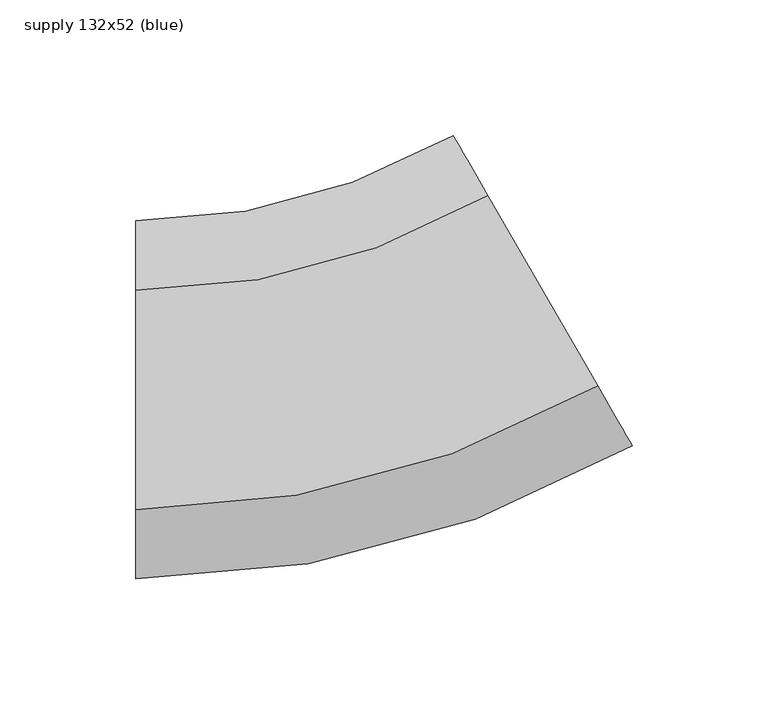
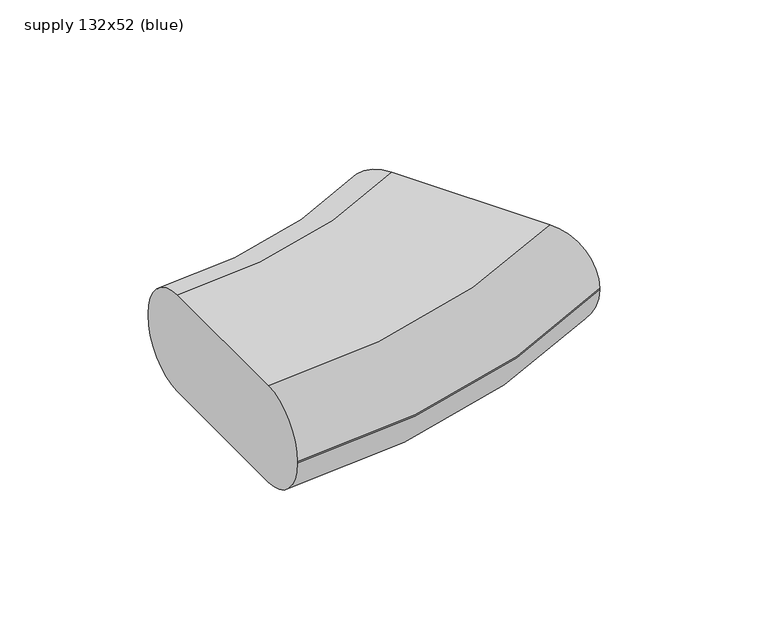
"""IFC4 building model written with IfcOpenShell, lengths in millimetres: duct segment geometry, NLRS_57_DUF_UN_Hybalans flexbend oval_M&G : supply 132x52 (blue)."""

from ifc_helpers import new_model, si_unit, point, frame, origin, place, context, project, spatial, polyline, circle_curve, ellipse_curve, trimmed, source, transform, mapped, element, save
from ifc_brep_helpers import plane_surface, cylinder_surface, revolved_surface, advanced_brep


def supply_132x52_blue_ae1e8619(model_context):
    return source(origin(), model_context, "Body", "AdvancedBrep", [
        advanced_brep(
        [(-80.3847577, -40.4, 26.0), (-80.3847577, 40.4, 26.0), (-80.3847577, 66.0, 0.4), (-80.3847577, 66.0, -0.4), (-80.3847577, 40.4, -26.0), (-80.3847577, -40.4, -26.0), (-80.3847577, -66.0, -0.4), (-80.3847577, -66.0, 0.4), (89.8152423, 5.2049526, 26.0), (102.6152423, -16.9652978, 0.4), (102.6152423, -16.9652978, -0.4), (89.8152423, 5.2049526, -26.0), (49.4152423, 75.1798052, -26.0), (36.6152423, 97.3500555, -0.4), (36.6152423, 97.3500555, 0.4), (49.4152423, 75.1798052, 26.0)],
        [
            (0, 1),
            (1, 2, circle_curve(frame((-80.3847577, 40.4, 0.4), z_axis=(-1.0, 0.0, 0.0), x_axis=(0.0, 1.0, 0.0)), 25.6)),
            (2, 3),
            (3, 4, circle_curve(frame((-80.3847577, 40.4, -0.4), z_axis=(-1.0, 0.0, 0.0), x_axis=(0.0, 1.0, 0.0)), 25.6)),
            (4, 5),
            (5, 6, circle_curve(frame((-80.3847577, -40.4, -0.4), z_axis=(-1.0, 0.0, 0.0), x_axis=(0.0, 1.0, 0.0)), 25.6)),
            (6, 7),
            (7, 0, circle_curve(frame((-80.3847577, -40.4, 0.4), z_axis=(-1.0, 0.0, 0.0), x_axis=(0.0, 1.0, 0.0)), 25.6)),
            (8, 9, circle_curve(frame((89.8152423, 5.2049526, 0.4), z_axis=(0.866025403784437, 0.5000000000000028, 0.0), x_axis=(-0.5000000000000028, 0.866025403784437, 0.0)), 25.6)),
            (9, 10),
            (10, 11, circle_curve(frame((89.8152423, 5.2049526, -0.4), z_axis=(0.866025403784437, 0.5000000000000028, 0.0), x_axis=(-0.5000000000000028, 0.866025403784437, 0.0)), 25.6)),
            (11, 12),
            (12, 13, circle_curve(frame((49.4152423, 75.1798052, -0.4), z_axis=(0.866025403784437, 0.5000000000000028, 0.0), x_axis=(-0.5000000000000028, 0.866025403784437, 0.0)), 25.6)),
            (13, 14),
            (14, 15, circle_curve(frame((49.4152423, 75.1798052, 0.4), z_axis=(0.866025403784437, 0.5000000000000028, 0.0), x_axis=(-0.5000000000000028, 0.866025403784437, 0.0)), 25.6)),
            (15, 8),
            (15, 1, circle_curve(frame((-80.3847577, 300.0, 26.0), z_axis=(0.0, 0.0, -1.0), x_axis=(0.0, -1.0, 0.0)), 259.6)),
            (0, 8, circle_curve(frame((-80.3847577, 300.0, 26.0), z_axis=(0.0, 0.0, 1.0), x_axis=(0.0, -1.0, 0.0)), 340.4)),
            (14, 2, circle_curve(frame((-80.3847577, 300.0, 0.4), z_axis=(0.0, 0.0, -1.0), x_axis=(0.0, -1.0, 0.0)), 234.0)),
            (13, 3, circle_curve(frame((-80.3847577, 300.0, -0.4), z_axis=(0.0, 0.0, -1.0), x_axis=(0.0, -1.0, 0.0)), 234.0)),
            (12, 4, circle_curve(frame((-80.3847577, 300.0, -26.0), z_axis=(0.0, 0.0, -1.0), x_axis=(0.0, -1.0, 0.0)), 259.6)),
            (11, 5, circle_curve(frame((-80.3847577, 300.0, -26.0), z_axis=(0.0, 0.0, -1.0), x_axis=(0.0, -1.0, 0.0)), 340.4)),
            (10, 6, circle_curve(frame((-80.3847577, 300.0, -0.4), z_axis=(0.0, 0.0, -1.0), x_axis=(0.0, -1.0, 0.0)), 366.0)),
            (9, 7, circle_curve(frame((-80.3847577, 300.0, 0.4), z_axis=(0.0, 0.0, -1.0), x_axis=(0.0, -1.0, 0.0)), 366.0)),
        ],
        [
            plane_surface(frame((-80.3847577, 0.0, 0.0), z_axis=(-1.0, 0.0, 0.0), x_axis=(0.0, 0.0, 1.0))),
            plane_surface(frame((69.6152423, 40.1923789, 0.0), z_axis=(0.8660254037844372, 0.5000000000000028, 0.0), x_axis=(0.0, 0.0, 1.0))),
            plane_surface(frame((-80.3847577, 300.0, 26.0), z_axis=(0.0, 0.0, 1.0), x_axis=(0.0, -1.0, 0.0))),
            revolved_surface(trimmed(ellipse_curve(frame((-80.3847577, 40.4, 0.4), z_axis=(-1.0, 0.0, 0.0), x_axis=(0.0, 1.0, 0.0)), 25.6, 25.6), [point((-80.3847577, 40.4, 26.0))], [point((-80.3847577, 66.0, 0.4))], True, "CARTESIAN"), (-80.3847577, 300.0, 0.0), (0.0, 0.0, 1.0)),
            revolved_surface(polyline([(-80.3847577, 66.0, 0.4), (-80.3847577, 66.0, -0.4)]), (-80.3847577, 300.0, 0.0), (0.0, 0.0, 1.0)),
            revolved_surface(trimmed(ellipse_curve(frame((-80.3847577, 40.4, -0.4), z_axis=(-1.0, 0.0, 0.0), x_axis=(0.0, 1.0, 0.0)), 25.6, 25.6), [point((-80.3847577, 66.0, -0.4))], [point((-80.3847577, 40.4, -26.0))], True, "CARTESIAN"), (-80.3847577, 300.0, 0.0), (0.0, 0.0, 1.0)),
            plane_surface(frame((-80.3847577, 300.0, -26.0), z_axis=(0.0, 0.0, -1.0), x_axis=(0.0, -1.0, 0.0))),
            revolved_surface(trimmed(ellipse_curve(frame((-80.3847577, -40.4, -0.4), z_axis=(-1.0, 0.0, 0.0), x_axis=(0.0, 1.0, 0.0)), 25.6, 25.6), [point((-80.3847577, -40.4, -26.0))], [point((-80.3847577, -66.0, -0.4))], True, "CARTESIAN"), (-80.3847577, 300.0, 0.0), (0.0, 0.0, 1.0)),
            cylinder_surface(frame((-80.3847577, 300.0, 0.0), z_axis=(0.0, 0.0, 1.0), x_axis=(0.0, -1.0, 0.0)), 366.0),
            revolved_surface(trimmed(ellipse_curve(frame((-80.3847577, -40.4, 0.4), z_axis=(-1.0, 0.0, 0.0), x_axis=(0.0, 1.0, 0.0)), 25.6, 25.6), [point((-80.3847577, -66.0, 0.4))], [point((-80.3847577, -40.4, 26.0))], True, "CARTESIAN"), (-80.3847577, 300.0, 0.0), (0.0, 0.0, 1.0)),
        ],
        [
            (0, [[1, 2, 3, 4, 5, 6, 7, 8]]),
            (1, [[9, 10, 11, 12, 13, 14, 15, 16]]),
            (2, [[17, -1, 18, -16]]),
            (3, [[19, -2, -17, -15]]),
            (4, [[20, -3, -19, -14]]),
            (5, [[21, -4, -20, -13]]),
            (6, [[22, -5, -21, -12]]),
            (7, [[23, -6, -22, -11]]),
            (8, [[24, -7, -23, -10]]),
            (9, [[-18, -8, -24, -9]]),
        ],
    ),
    ])


if __name__ == "__main__":
    model = new_model("IFC4")
    model_context = context("Model", 3, world=origin())
    ifc_project = project(units=[si_unit("LENGTHUNIT", "METRE", prefix="MILLI")], contexts=[model_context])
    site = spatial("IfcSite", under=ifc_project)
    building = spatial("IfcBuilding", under=site)
    placement = place(None, origin())
    supply_132x52_blue_shape = supply_132x52_blue_ae1e8619(model_context)
    element("IfcDuctSegment", 1, ObjectType="NLRS_57_DUF_UN_Hybalans flexbend oval_M&G : supply 132x52 (blue)", at=placement, inside=building, context=model_context, shape_type="MappedRepresentation", body=[
        mapped(supply_132x52_blue_shape, transform((0.0, 0.0, 0.0), x_axis=(1.0, 0.0, 0.0), y_axis=(0.0, 1.0, 0.0), z_axis=(0.0, 0.0, 1.0))),
    ])
    save(model, "model.ifc")
